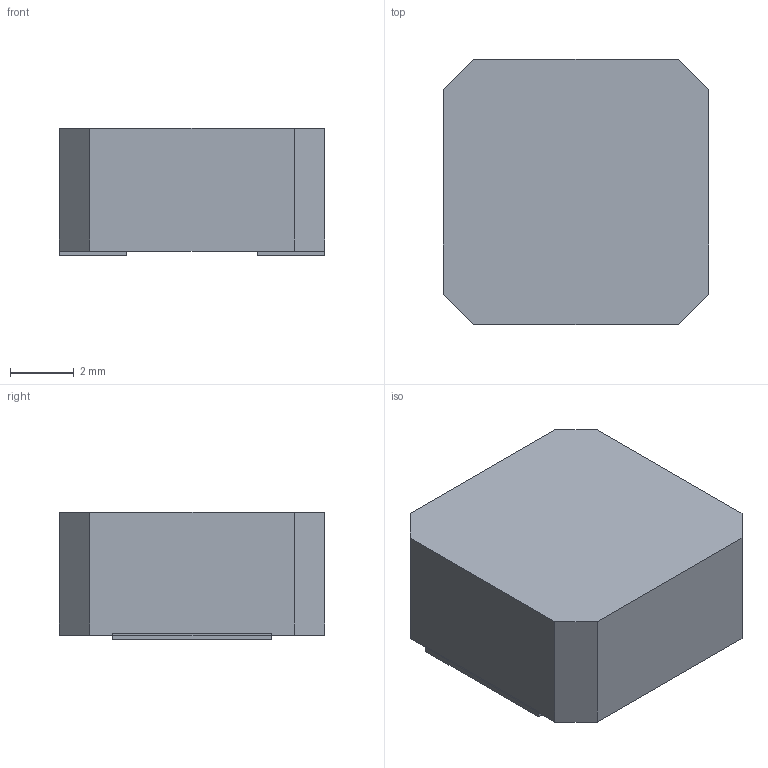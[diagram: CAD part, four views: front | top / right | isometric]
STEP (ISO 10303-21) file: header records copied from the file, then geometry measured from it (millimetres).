
FILE_DESCRIPTION(('Open CASCADE Model'),'2;1');
FILE_NAME('Open CASCADE Shape Model','2026-10-09T15:40:50',('Author'),( 'Open CASCADE'),'Open CASCADE STEP processor 7.7','Open CASCADE 7.7' ,'Unknown');
FILE_SCHEMA(('AUTOMOTIVE_DESIGN { 1 0 10303 214 1 1 1 1 }'));
Length unit declared in the file: millimetre
Products named in the file (3): DG8040C maximum body envelope; Terminal1; Terminal2
Bounding box: 8.3 x 8.3 x 4 mm (x, y, z)
Volume: 262.5 mm3; surface area: 301.1 mm2
Topology: 3 solids, 3 shells, 22 faces, 48 edges, 32 vertices
Faces by surface type: plane 22
Entity records: 1274 total; most frequent: CARTESIAN_POINT 199, DIRECTION 190, LINE 144, VECTOR 144, ORIENTED_EDGE 96, PCURVE 96, DEFINITIONAL_REPRESENTATION 96, EDGE_CURVE 48
